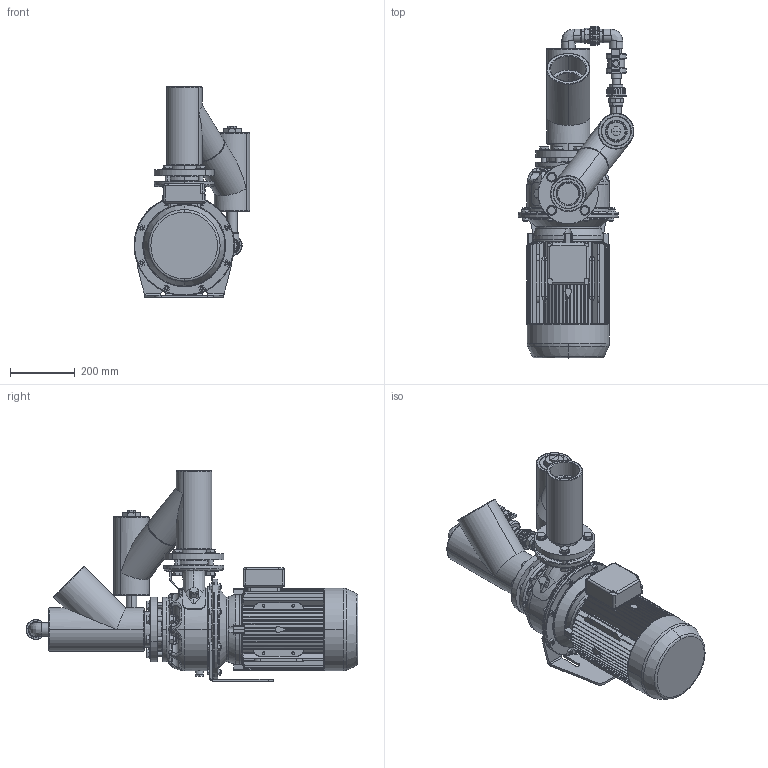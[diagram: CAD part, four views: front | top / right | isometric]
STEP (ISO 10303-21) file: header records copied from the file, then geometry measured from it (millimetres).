
FILE_DESCRIPTION (( 'STEP AP203' ), '1' );
FILE_NAME ('Lowara SHE 65-160 z.a.z handbed. by-pass.STEP', '2011-04-07T12:35:12', ( '' ), ( '' ), 'SwSTEP 2.0', 'SolidWorks 2010', '' );
FILE_SCHEMA (( 'CONFIG_CONTROL_DESIGN' ));
Products named in the file (1): Lowara SHE 65-160 z.a.z handbed. by-pass
Bounding box: 357.95 x 1024.95 x 650.24 mm (x, y, z)
Volume: 35078060.2 mm3; surface area: 3298387.5 mm2
Topology: 81 solids, 83 shells, 3249 faces, 8108 edges, 5044 vertices
Faces by surface type: plane 1204, cylinder 999, cone 589, bspline 434, torus 23
Entity records: 138103 total; most frequent: CARTESIAN_POINT 64915, ORIENTED_EDGE 16032, DIRECTION 14373, EDGE_CURVE 8016, AXIS2_PLACEMENT_3D 5739, VERTEX_POINT 5050, EDGE_LOOP 3574, FACE_OUTER_BOUND 3251
